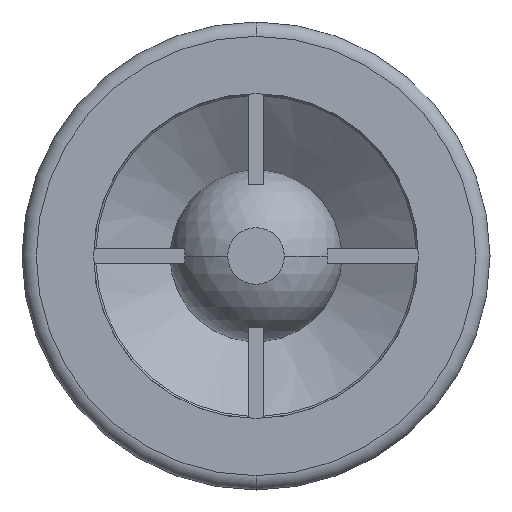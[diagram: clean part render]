
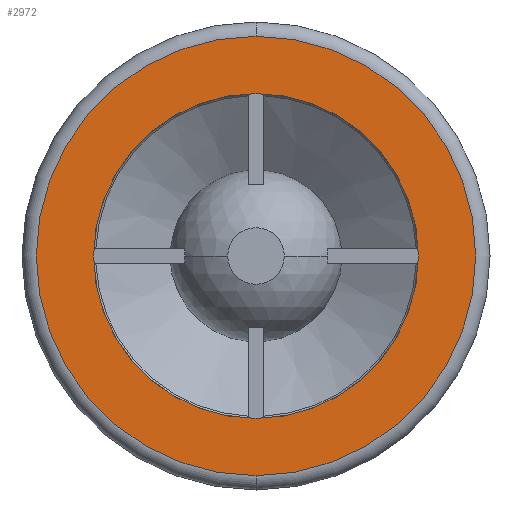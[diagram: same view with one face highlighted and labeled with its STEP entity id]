
A CAD part, front view. The second image highlights one B-rep face of the part: STEP entity #2972.
In plain terms, the highlighted planar face has unit normal (0, -1, 0).
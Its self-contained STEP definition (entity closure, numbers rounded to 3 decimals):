
#973 = DIRECTION ( 'NONE',  ( 0., -1., 0. ) ) ;
#974 = AXIS2_PLACEMENT_3D ( 'NONE', #981, #973, #1035 ) ;
#975 = CIRCLE ( 'NONE', #974, 17. ) ;
#981 = CARTESIAN_POINT ( 'NONE',  ( 0., 0., 0. ) ) ;
#1035 = DIRECTION ( 'NONE',  ( 0., 0., -1. ) ) ;
#1931 = EDGE_CURVE ( 'NONE', #3026, #3039, #975, .T. ) ;
#2037 = DIRECTION ( 'NONE',  ( 0., 0., 1. ) ) ;
#2038 = DIRECTION ( 'NONE',  ( 0., -1., 0. ) ) ;
#2039 = AXIS2_PLACEMENT_3D ( 'NONE', #2043, #2038, #2037 ) ;
#2040 = CIRCLE ( 'NONE', #2039, 23. ) ;
#2043 = CARTESIAN_POINT ( 'NONE',  ( 0., 0., 0. ) ) ;
#2047 = DIRECTION ( 'NONE',  ( 0., 0., 1. ) ) ;
#2048 = DIRECTION ( 'NONE',  ( 0., 1., 0. ) ) ;
#2049 = CARTESIAN_POINT ( 'NONE',  ( -17., 0., 0. ) ) ;
#2051 = AXIS2_PLACEMENT_3D ( 'NONE', #2049, #2048, #2047 ) ;
#2052 = PLANE ( 'NONE',  #2051 ) ;
#2053 = FACE_BOUND ( 'NONE', #2988, .T. ) ;
#2054 = FACE_OUTER_BOUND ( 'NONE', #2953, .T. ) ;
#2099 = CARTESIAN_POINT ( 'NONE',  ( 0., 0., -23. ) ) ;
#2100 = CARTESIAN_POINT ( 'NONE',  ( 0., 0., 23. ) ) ;
#2132 = DIRECTION ( 'NONE',  ( 0., 0., -1. ) ) ;
#2133 = DIRECTION ( 'NONE',  ( 0., -1., 0. ) ) ;
#2134 = CARTESIAN_POINT ( 'NONE',  ( 0., 0., 0. ) ) ;
#2135 = AXIS2_PLACEMENT_3D ( 'NONE', #2134, #2133, #2132 ) ;
#2136 = CIRCLE ( 'NONE', #2135, 17. ) ;
#2146 = CARTESIAN_POINT ( 'NONE',  ( 0., 0., -17. ) ) ;
#2151 = DIRECTION ( 'NONE',  ( 0., 0., 1. ) ) ;
#2152 = DIRECTION ( 'NONE',  ( 0., -1., 0. ) ) ;
#2153 = CARTESIAN_POINT ( 'NONE',  ( 0., 0., 0. ) ) ;
#2154 = AXIS2_PLACEMENT_3D ( 'NONE', #2153, #2152, #2151 ) ;
#2155 = CIRCLE ( 'NONE', #2154, 23. ) ;
#2192 = CARTESIAN_POINT ( 'NONE',  ( 0., 0., 17. ) ) ;
#2953 = EDGE_LOOP ( 'NONE', ( #2976, #2978 ) ) ;
#2972 = ADVANCED_FACE ( 'NONE', ( #2054, #2053 ), #2052, .F. ) ;
#2976 = ORIENTED_EDGE ( 'NONE', *, *, #2979, .T. ) ;
#2977 = ORIENTED_EDGE ( 'NONE', *, *, #1931, .F. ) ;
#2978 = ORIENTED_EDGE ( 'NONE', *, *, #3021, .T. ) ;
#2979 = EDGE_CURVE ( 'NONE', #3016, #3017, #2040, .T. ) ;
#2984 = ORIENTED_EDGE ( 'NONE', *, *, #3036, .F. ) ;
#2988 = EDGE_LOOP ( 'NONE', ( #2977, #2984 ) ) ;
#3016 = VERTEX_POINT ( 'NONE', #2100 ) ;
#3017 = VERTEX_POINT ( 'NONE', #2099 ) ;
#3021 = EDGE_CURVE ( 'NONE', #3017, #3016, #2155, .T. ) ;
#3026 = VERTEX_POINT ( 'NONE', #2146 ) ;
#3036 = EDGE_CURVE ( 'NONE', #3039, #3026, #2136, .T. ) ;
#3039 = VERTEX_POINT ( 'NONE', #2192 ) ;
